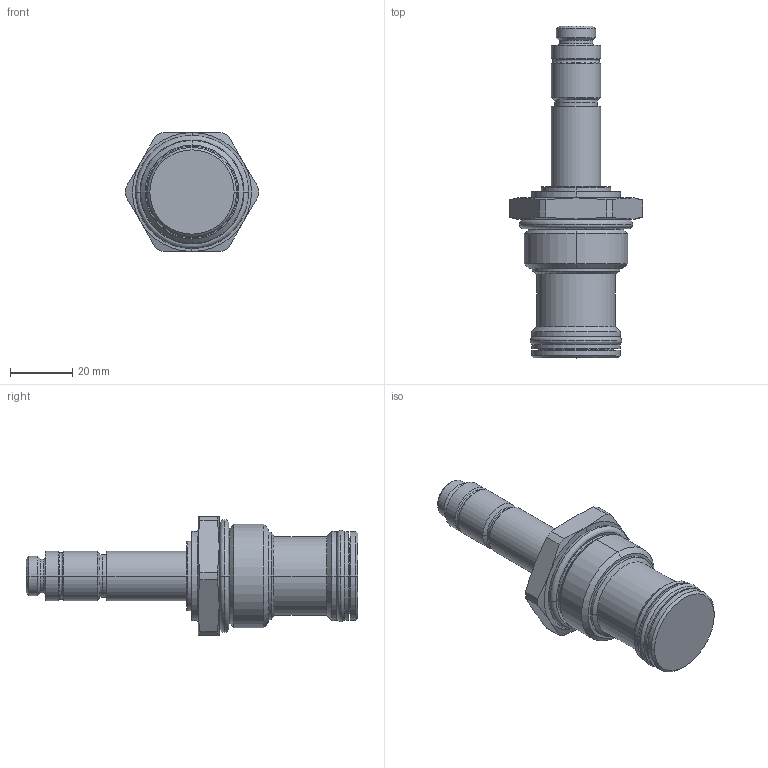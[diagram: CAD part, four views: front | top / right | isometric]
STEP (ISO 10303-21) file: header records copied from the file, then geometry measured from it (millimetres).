
FILE_DESCRIPTION((''),'2;1');
FILE_NAME('5060000_SW0002','2009-03-03T',('JCS'),(''),'PRO/ENGINEER BY PARAMETRIC TECHNOLOGY CORPORATION, 2008010','PRO/ENGINEER BY PARAMETRIC TECHNOLOGY CORPORATION, 2008010','');
FILE_SCHEMA(('CONFIG_CONTROL_DESIGN'));
Length unit declared in the file: inch
Products named in the file (1): 5060000_SW0002
Bounding box: 42.66 x 106.27 x 38.1 mm (x, y, z)
Volume: 49029.4 mm3; surface area: 12749.7 mm2
Topology: 3 solids, 3 shells, 140 faces, 290 edges, 160 vertices
Faces by surface type: cone 50, cylinder 42, plane 16, torus 16, revolution 16
Entity records: 4052 total; most frequent: CARTESIAN_POINT 1020, DIRECTION 678, ORIENTED_EDGE 580, EDGE_CURVE 290, AXIS2_PLACEMENT_3D 288, CIRCLE 164, VERTEX_POINT 160, EDGE_LOOP 148
